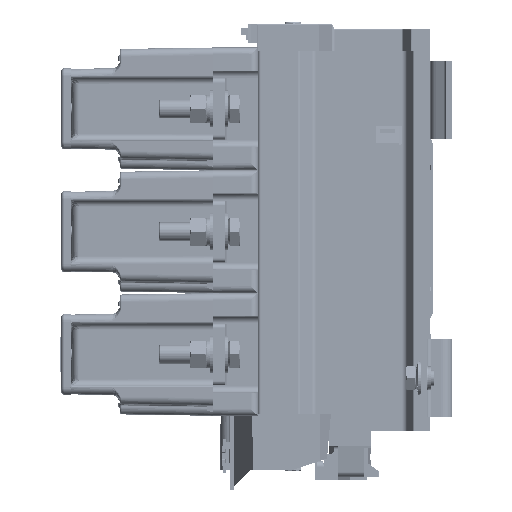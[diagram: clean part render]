
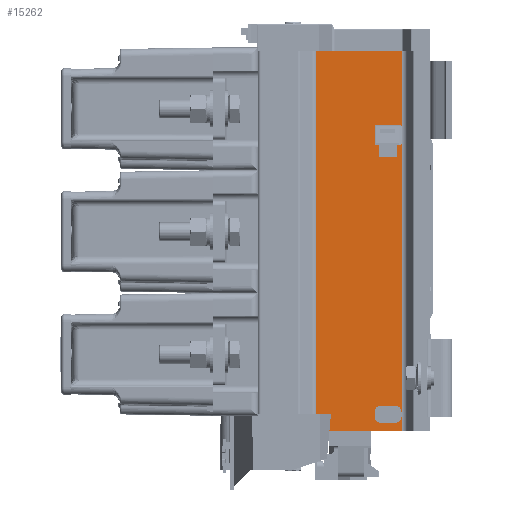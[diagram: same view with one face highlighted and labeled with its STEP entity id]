
A CAD part, left-side view. The second image highlights one B-rep face of the part: STEP entity #15262.
In plain terms, the highlighted planar face has unit normal (-1, 0, 0) as drawn and (1, 0, 0) by its records, which use the part's own axes.
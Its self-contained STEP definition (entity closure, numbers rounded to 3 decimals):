
#10607=DIRECTION('',(0.,0.,-1.));
#10608=VECTOR('',#10607,55.35);
#10609=CARTESIAN_POINT('',(1.75,0.,-18.65));
#10610=LINE('',#10609,#10608);
#12209=DIRECTION('',(0.,-1.,0.));
#12210=VECTOR('',#12209,248.);
#12211=CARTESIAN_POINT('',(1.75,248.,-18.65));
#12212=LINE('',#12211,#12210);
#12213=DIRECTION('',(0.,0.,-1.));
#12214=VECTOR('',#12213,55.35);
#12215=CARTESIAN_POINT('',(1.75,248.,-18.65));
#12216=LINE('',#12215,#12214);
#12217=DIRECTION('',(0.,1.,0.));
#12218=VECTOR('',#12217,3.);
#12219=CARTESIAN_POINT('',(1.75,236.,-36.25));
#12220=LINE('',#12219,#12218);
#12221=CARTESIAN_POINT('',(1.75,239.,-32.25));
#12222=DIRECTION('',(1.,0.,0.));
#12223=DIRECTION('',(0.,0.,-1.));
#12224=AXIS2_PLACEMENT_3D('',#12221,#12222,#12223);
#12226=DIRECTION('',(0.,0.,1.));
#12227=VECTOR('',#12226,9.5);
#12228=CARTESIAN_POINT('',(1.75,243.,-32.25));
#12229=LINE('',#12228,#12227);
#12230=CARTESIAN_POINT('',(1.75,239.,-22.75));
#12231=DIRECTION('',(1.,0.,0.));
#12232=DIRECTION('',(0.,1.,0.));
#12233=AXIS2_PLACEMENT_3D('',#12230,#12231,#12232);
#12235=DIRECTION('',(0.,-1.,0.));
#12236=VECTOR('',#12235,3.);
#12237=CARTESIAN_POINT('',(1.75,239.,-18.75));
#12238=LINE('',#12237,#12236);
#12239=CARTESIAN_POINT('',(1.75,236.,-22.75));
#12240=DIRECTION('',(1.,0.,0.));
#12241=DIRECTION('',(0.,0.,1.));
#12242=AXIS2_PLACEMENT_3D('',#12239,#12240,#12241);
#12244=DIRECTION('',(0.,0.,-1.));
#12245=VECTOR('',#12244,9.5);
#12246=CARTESIAN_POINT('',(1.75,232.,-22.75));
#12247=LINE('',#12246,#12245);
#12248=CARTESIAN_POINT('',(1.75,236.,-32.25));
#12249=DIRECTION('',(1.,0.,0.));
#12250=DIRECTION('',(0.,-1.,0.));
#12251=AXIS2_PLACEMENT_3D('',#12248,#12249,#12250);
#12253=CARTESIAN_POINT('',(1.75,63.5,-33.75));
#12254=DIRECTION('',(-1.,0.,0.));
#12255=DIRECTION('',(0.,-1.,0.));
#12256=AXIS2_PLACEMENT_3D('',#12253,#12254,#12255);
#12258=DIRECTION('',(0.,1.,0.));
#12259=VECTOR('',#12258,6.7);
#12260=CARTESIAN_POINT('',(1.75,63.5,-33.25));
#12261=LINE('',#12260,#12259);
#12262=CARTESIAN_POINT('',(1.75,70.2,-32.75));
#12263=DIRECTION('',(1.,0.,0.));
#12264=DIRECTION('',(0.,0.,-1.));
#12265=AXIS2_PLACEMENT_3D('',#12262,#12263,#12264);
#12267=DIRECTION('',(0.,0.,1.));
#12268=VECTOR('',#12267,10.5);
#12269=CARTESIAN_POINT('',(1.75,70.7,-32.75));
#12270=LINE('',#12269,#12268);
#12271=CARTESIAN_POINT('',(1.75,70.2,-22.25));
#12272=DIRECTION('',(1.,0.,0.));
#12273=DIRECTION('',(0.,1.,0.));
#12274=AXIS2_PLACEMENT_3D('',#12271,#12272,#12273);
#12276=DIRECTION('',(0.,-1.,0.));
#12277=VECTOR('',#12276,6.7);
#12278=CARTESIAN_POINT('',(1.75,70.2,-21.75));
#12279=LINE('',#12278,#12277);
#12280=CARTESIAN_POINT('',(1.75,63.5,-21.25));
#12281=DIRECTION('',(-1.,0.,0.));
#12282=DIRECTION('',(0.,0.,-1.));
#12283=AXIS2_PLACEMENT_3D('',#12280,#12281,#12282);
#12285=DIRECTION('',(0.,0.,1.));
#12286=VECTOR('',#12285,2.);
#12287=CARTESIAN_POINT('',(1.75,63.,-21.25));
#12288=LINE('',#12287,#12286);
#12289=CARTESIAN_POINT('',(1.75,62.5,-19.25));
#12290=DIRECTION('',(1.,0.,0.));
#12291=DIRECTION('',(0.,1.,0.));
#12292=AXIS2_PLACEMENT_3D('',#12289,#12290,#12291);
#12294=DIRECTION('',(0.,-1.,0.));
#12295=VECTOR('',#12294,11.5);
#12296=CARTESIAN_POINT('',(1.75,62.5,-18.75));
#12297=LINE('',#12296,#12295);
#12298=CARTESIAN_POINT('',(1.75,51.,-19.25));
#12299=DIRECTION('',(1.,0.,0.));
#12300=DIRECTION('',(0.,0.,1.));
#12301=AXIS2_PLACEMENT_3D('',#12298,#12299,#12300);
#12303=DIRECTION('',(0.,0.,-1.));
#12304=VECTOR('',#12303,16.5);
#12305=CARTESIAN_POINT('',(1.75,50.5,-19.25));
#12306=LINE('',#12305,#12304);
#12307=CARTESIAN_POINT('',(1.75,51.,-35.75));
#12308=DIRECTION('',(1.,0.,0.));
#12309=DIRECTION('',(0.,-1.,0.));
#12310=AXIS2_PLACEMENT_3D('',#12307,#12308,#12309);
#12312=DIRECTION('',(0.,1.,0.));
#12313=VECTOR('',#12312,11.5);
#12314=CARTESIAN_POINT('',(1.75,51.,-36.25));
#12315=LINE('',#12314,#12313);
#12316=CARTESIAN_POINT('',(1.75,62.5,-35.75));
#12317=DIRECTION('',(1.,0.,0.));
#12318=DIRECTION('',(0.,0.,-1.));
#12319=AXIS2_PLACEMENT_3D('',#12316,#12317,#12318);
#12321=DIRECTION('',(0.,0.,1.));
#12322=VECTOR('',#12321,2.);
#12323=CARTESIAN_POINT('',(1.75,63.,-35.75));
#12324=LINE('',#12323,#12322);
#12325=DIRECTION('',(0.,1.,0.));
#12326=VECTOR('',#12325,248.);
#12327=CARTESIAN_POINT('',(1.75,0.,-74.));
#12328=LINE('',#12327,#12326);
#12929=CARTESIAN_POINT('',(1.75,0.,-18.65));
#12930=VERTEX_POINT('',#12929);
#12931=CARTESIAN_POINT('',(1.75,0.,-74.));
#12932=VERTEX_POINT('',#12931);
#13234=CARTESIAN_POINT('',(1.75,248.,-74.));
#13235=VERTEX_POINT('',#13234);
#13236=CARTESIAN_POINT('',(1.75,248.,-18.65));
#13237=VERTEX_POINT('',#13236);
#13442=CARTESIAN_POINT('',(1.75,243.,-32.25));
#13443=VERTEX_POINT('',#13442);
#13444=CARTESIAN_POINT('',(1.75,243.,-22.75));
#13445=VERTEX_POINT('',#13444);
#13446=CARTESIAN_POINT('',(1.75,239.,-36.25));
#13447=VERTEX_POINT('',#13446);
#13448=CARTESIAN_POINT('',(1.75,236.,-36.25));
#13449=VERTEX_POINT('',#13448);
#13450=CARTESIAN_POINT('',(1.75,232.,-32.25));
#13451=VERTEX_POINT('',#13450);
#13452=CARTESIAN_POINT('',(1.75,232.,-22.75));
#13453=VERTEX_POINT('',#13452);
#13454=CARTESIAN_POINT('',(1.75,239.,-18.75));
#13455=VERTEX_POINT('',#13454);
#13456=CARTESIAN_POINT('',(1.75,236.,-18.75));
#13457=VERTEX_POINT('',#13456);
#13458=CARTESIAN_POINT('',(1.75,63.,-33.75));
#13459=CARTESIAN_POINT('',(1.75,63.5,-33.25));
#13460=VERTEX_POINT('',#13458);
#13461=VERTEX_POINT('',#13459);
#13462=CARTESIAN_POINT('',(1.75,70.2,-33.25));
#13463=VERTEX_POINT('',#13462);
#13464=CARTESIAN_POINT('',(1.75,70.7,-32.75));
#13465=VERTEX_POINT('',#13464);
#13466=CARTESIAN_POINT('',(1.75,70.7,-22.25));
#13467=VERTEX_POINT('',#13466);
#13468=CARTESIAN_POINT('',(1.75,70.2,-21.75));
#13469=VERTEX_POINT('',#13468);
#13470=CARTESIAN_POINT('',(1.75,63.5,-21.75));
#13471=VERTEX_POINT('',#13470);
#13472=CARTESIAN_POINT('',(1.75,63.,-21.25));
#13473=VERTEX_POINT('',#13472);
#13474=CARTESIAN_POINT('',(1.75,63.,-19.25));
#13475=VERTEX_POINT('',#13474);
#13476=CARTESIAN_POINT('',(1.75,62.5,-18.75));
#13477=VERTEX_POINT('',#13476);
#13478=CARTESIAN_POINT('',(1.75,51.,-18.75));
#13479=VERTEX_POINT('',#13478);
#13480=CARTESIAN_POINT('',(1.75,50.5,-19.25));
#13481=VERTEX_POINT('',#13480);
#13482=CARTESIAN_POINT('',(1.75,50.5,-35.75));
#13483=VERTEX_POINT('',#13482);
#13484=CARTESIAN_POINT('',(1.75,51.,-36.25));
#13485=VERTEX_POINT('',#13484);
#13486=CARTESIAN_POINT('',(1.75,62.5,-36.25));
#13487=VERTEX_POINT('',#13486);
#13488=CARTESIAN_POINT('',(1.75,63.,-35.75));
#13489=VERTEX_POINT('',#13488);
#15198=CARTESIAN_POINT('',(1.75,248.,-74.));
#15199=DIRECTION('',(-1.,0.,0.));
#15200=DIRECTION('',(0.,0.,1.));
#15201=AXIS2_PLACEMENT_3D('',#15198,#15199,#15200);
#15202=PLANE('',#15201);
#15203=ORIENTED_EDGE('',*,*,#15192,.F.);
#15204=ORIENTED_EDGE('',*,*,#14030,.T.);
#15206=ORIENTED_EDGE('',*,*,#15205,.F.);
#15207=ORIENTED_EDGE('',*,*,#13673,.F.);
#15208=EDGE_LOOP('',(#15203,#15204,#15206,#15207));
#15209=FACE_OUTER_BOUND('',#15208,.F.);
#15211=ORIENTED_EDGE('',*,*,#15210,.T.);
#15213=ORIENTED_EDGE('',*,*,#15212,.T.);
#15215=ORIENTED_EDGE('',*,*,#15214,.T.);
#15217=ORIENTED_EDGE('',*,*,#15216,.T.);
#15219=ORIENTED_EDGE('',*,*,#15218,.T.);
#15221=ORIENTED_EDGE('',*,*,#15220,.T.);
#15223=ORIENTED_EDGE('',*,*,#15222,.T.);
#15225=ORIENTED_EDGE('',*,*,#15224,.T.);
#15226=EDGE_LOOP('',(#15211,#15213,#15215,#15217,#15219,#15221,#15223,#15225));
#15227=FACE_BOUND('',#15226,.F.);
#15229=ORIENTED_EDGE('',*,*,#15228,.T.);
#15231=ORIENTED_EDGE('',*,*,#15230,.T.);
#15233=ORIENTED_EDGE('',*,*,#15232,.T.);
#15235=ORIENTED_EDGE('',*,*,#15234,.T.);
#15237=ORIENTED_EDGE('',*,*,#15236,.T.);
#15239=ORIENTED_EDGE('',*,*,#15238,.T.);
#15241=ORIENTED_EDGE('',*,*,#15240,.T.);
#15243=ORIENTED_EDGE('',*,*,#15242,.T.);
#15245=ORIENTED_EDGE('',*,*,#15244,.T.);
#15247=ORIENTED_EDGE('',*,*,#15246,.T.);
#15249=ORIENTED_EDGE('',*,*,#15248,.T.);
#15251=ORIENTED_EDGE('',*,*,#15250,.T.);
#15253=ORIENTED_EDGE('',*,*,#15252,.T.);
#15255=ORIENTED_EDGE('',*,*,#15254,.T.);
#15257=ORIENTED_EDGE('',*,*,#15256,.T.);
#15259=ORIENTED_EDGE('',*,*,#15258,.T.);
#15260=EDGE_LOOP('',(#15229,#15231,#15233,#15235,#15237,#15239,#15241,#15243,
#15245,#15247,#15249,#15251,#15253,#15255,#15257,#15259));
#15261=FACE_BOUND('',#15260,.F.);
#15262=ADVANCED_FACE('',(#15209,#15227,#15261),#15202,.F.);
#12225=CIRCLE('',#12224,4.);
#12234=CIRCLE('',#12233,4.);
#12243=CIRCLE('',#12242,4.);
#12252=CIRCLE('',#12251,4.);
#12257=CIRCLE('',#12256,0.5);
#12266=CIRCLE('',#12265,0.5);
#12275=CIRCLE('',#12274,0.5);
#12284=CIRCLE('',#12283,0.5);
#12293=CIRCLE('',#12292,0.5);
#12302=CIRCLE('',#12301,0.5);
#12311=CIRCLE('',#12310,0.5);
#12320=CIRCLE('',#12319,0.5);
#13673=EDGE_CURVE('',#12930,#12932,#10610,.T.);
#14030=EDGE_CURVE('',#13237,#13235,#12216,.T.);
#15192=EDGE_CURVE('',#13237,#12930,#12212,.T.);
#15205=EDGE_CURVE('',#12932,#13235,#12328,.T.);
#15210=EDGE_CURVE('',#13449,#13447,#12220,.T.);
#15212=EDGE_CURVE('',#13447,#13443,#12225,.T.);
#15214=EDGE_CURVE('',#13443,#13445,#12229,.T.);
#15216=EDGE_CURVE('',#13445,#13455,#12234,.T.);
#15218=EDGE_CURVE('',#13455,#13457,#12238,.T.);
#15220=EDGE_CURVE('',#13457,#13453,#12243,.T.);
#15222=EDGE_CURVE('',#13453,#13451,#12247,.T.);
#15224=EDGE_CURVE('',#13451,#13449,#12252,.T.);
#15228=EDGE_CURVE('',#13460,#13461,#12257,.T.);
#15230=EDGE_CURVE('',#13461,#13463,#12261,.T.);
#15232=EDGE_CURVE('',#13463,#13465,#12266,.T.);
#15234=EDGE_CURVE('',#13465,#13467,#12270,.T.);
#15236=EDGE_CURVE('',#13467,#13469,#12275,.T.);
#15238=EDGE_CURVE('',#13469,#13471,#12279,.T.);
#15240=EDGE_CURVE('',#13471,#13473,#12284,.T.);
#15242=EDGE_CURVE('',#13473,#13475,#12288,.T.);
#15244=EDGE_CURVE('',#13475,#13477,#12293,.T.);
#15246=EDGE_CURVE('',#13477,#13479,#12297,.T.);
#15248=EDGE_CURVE('',#13479,#13481,#12302,.T.);
#15250=EDGE_CURVE('',#13481,#13483,#12306,.T.);
#15252=EDGE_CURVE('',#13483,#13485,#12311,.T.);
#15254=EDGE_CURVE('',#13485,#13487,#12315,.T.);
#15256=EDGE_CURVE('',#13487,#13489,#12320,.T.);
#15258=EDGE_CURVE('',#13489,#13460,#12324,.T.);
